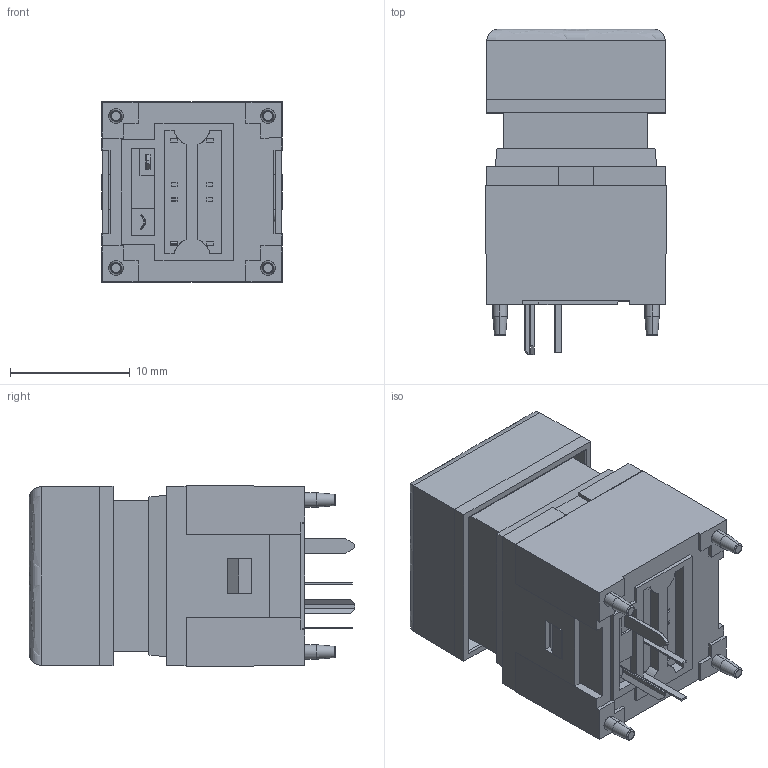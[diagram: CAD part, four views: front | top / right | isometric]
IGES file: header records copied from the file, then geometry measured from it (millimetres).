
Start section: SolidWorks IGES file using analytic representation for surfaces
Global section: file name: 9HE:\H\2010開發案\961212-IPS帶燈開關\961220紳暉圖檔2005版\20120229\IP-腳長4mm.IGS; native system: SolidWorks 2012; preprocessor: SolidWorks 2012; author: user; date: 120229.183846; units: millimetre
Bounding box: 15.09 x 27.2 x 15.09 mm (x, y, z)
Surface area: 7155 mm2 (no closed solid volume)
Topology: 0 solids, 0 shells, 810 faces, 5692 edges, 5677 vertices
Faces by surface type: bspline 681, revolution 129
